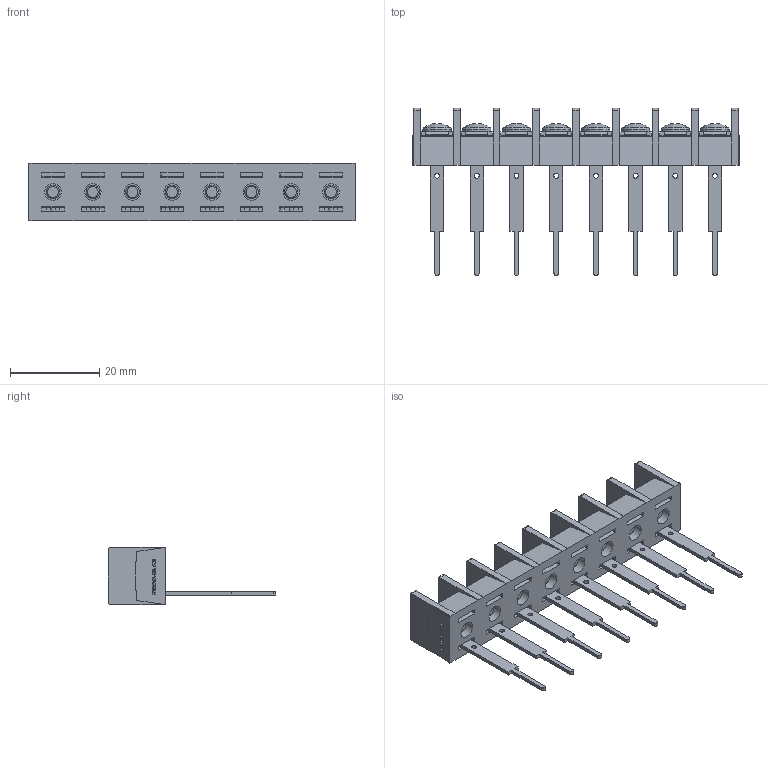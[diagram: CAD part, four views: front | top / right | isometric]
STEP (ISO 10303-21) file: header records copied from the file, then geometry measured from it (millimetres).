
FILE_DESCRIPTION(/* description */ ('Alibre Inc.'),/* implementation_level */ '2;1');
FILE_NAME(/* name */ 'export0',/* time_stamp */ '2015-10-20T20:08:20+09:00',/* author */ (''),/* organization */ (''),/* preprocessor_version */ 'ST-DEVELOPER v14',/* originating_system */ 'Alibre',/* authorisation */ '');
FILE_SCHEMA (('CONFIG_CONTROL_DESIGN'));
Length unit declared in the file: centimetre
Products named in the file (1): ID_1
Bounding box: 73.03 x 37.5 x 12.8 mm (x, y, z)
Volume: 7155.2 mm3; surface area: 9676.7 mm2
Topology: 1 solids, 129 shells, 2678 faces, 6920 edges, 4580 vertices
Faces by surface type: plane 2004, bspline 520, cylinder 90, cone 40, torus 16, sphere 8
Full cylindrical faces by diameter (mm): 1.1 x8, 3 x8, 3.7 x8, 4.6 x8, 6.3 x8
Entity records: 77969 total; most frequent: CARTESIAN_POINT 19027, ORIENTED_EDGE 13664, DIRECTION 8150, EDGE_CURVE 6832, VECTOR 5252, LINE 5252, VERTEX_POINT 4556, EDGE_LOOP 2950
